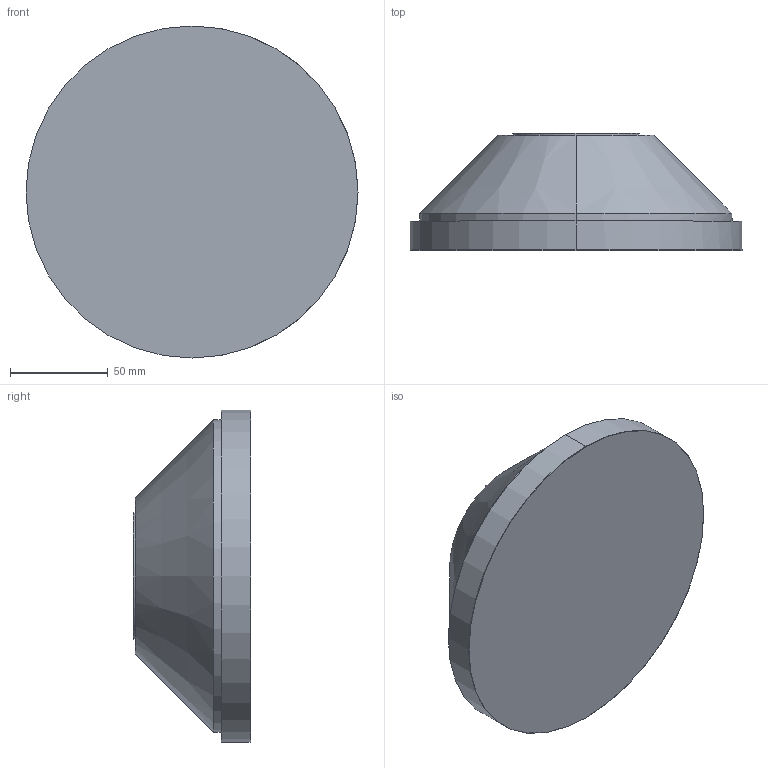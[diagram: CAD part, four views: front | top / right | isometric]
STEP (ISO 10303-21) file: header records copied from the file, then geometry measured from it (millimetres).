
FILE_DESCRIPTION (( 'STEP AP203' ), '1' );
FILE_NAME ('EZ-0053-170 Standardlager Bestell-Nr. 0006296.STEP', '2021-09-16T15:17:25', ( '' ), ( '' ), 'SwSTEP 2.0', 'SolidWorks 2021', '' );
FILE_SCHEMA (( 'CONFIG_CONTROL_DESIGN' ));
Length unit declared in the file: millimetre
Products named in the file (1): EZ-0053-170 Standardlager  Bestell-Nr. 0006296
Bounding box: 170 x 60 x 170 mm (x, y, z)
Volume: 879861.3 mm3; surface area: 112344.8 mm2
Topology: 4 solids, 4 shells, 115 faces, 254 edges, 152 vertices
Faces by surface type: cylinder 54, plane 29, cone 24, torus 6, sphere 2
Entity records: 3209 total; most frequent: DIRECTION 596, CARTESIAN_POINT 570, ORIENTED_EDGE 476, AXIS2_PLACEMENT_3D 250, EDGE_CURVE 238, VERTEX_POINT 152, EDGE_LOOP 138, CIRCLE 134
